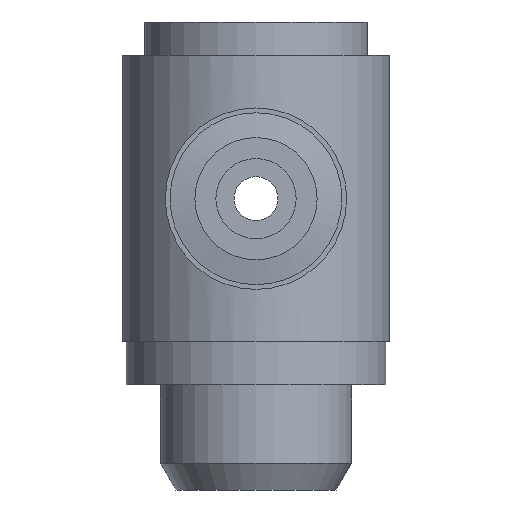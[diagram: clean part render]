
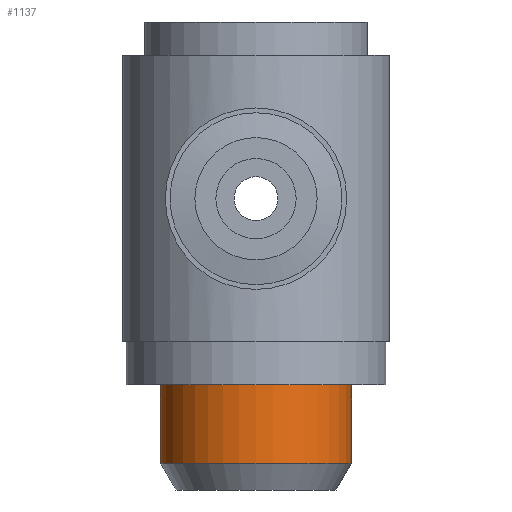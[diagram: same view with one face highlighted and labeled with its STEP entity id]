
A CAD part, front view. The second image highlights one B-rep face of the part: STEP entity #1137.
In plain terms, the highlighted cylindrical face has radius 5 mm (diameter 10 mm), a full revolution.
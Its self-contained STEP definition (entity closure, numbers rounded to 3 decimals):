
#1097=CARTESIAN_POINT('',(0.,-5.0,-13.85));
#1098=VERTEX_POINT('',#1097);
#1099=CARTESIAN_POINT('',(0.0,0.0,-13.85));
#1100=DIRECTION('',(0.0,0.0,-1.0));
#1101=DIRECTION('',(0.0,1.0,0.0));
#1102=AXIS2_PLACEMENT_3D('',#1099,#1100,#1101);
#1103=CIRCLE('',#1102,5.0);
#1104=EDGE_CURVE('',#1098,#1098,#1103,.T.);
#1118=CARTESIAN_POINT('',(0.0,0.0,-12.5));
#1119=DIRECTION('',(0.0,0.0,1.0));
#1120=DIRECTION('',(0.0,-1.0,0.0));
#1121=AXIS2_PLACEMENT_3D('',#1118,#1119,#1120);
#1122=CYLINDRICAL_SURFACE('',#1121,5.0);
#1123=CARTESIAN_POINT('',(0.0,-5.0,-9.75));
#1124=VERTEX_POINT('',#1123);
#1125=CARTESIAN_POINT('',(0.0,0.0,-9.75));
#1126=DIRECTION('',(0.0,0.0,1.0));
#1127=DIRECTION('',(0.0,-1.0,0.0));
#1128=AXIS2_PLACEMENT_3D('',#1125,#1126,#1127);
#1129=CIRCLE('',#1128,5.0);
#1130=EDGE_CURVE('',#1124,#1124,#1129,.T.);
#1131=ORIENTED_EDGE('',*,*,#1130,.F.);
#1132=EDGE_LOOP('',(#1131));
#1133=FACE_OUTER_BOUND('',#1132,.T.);
#1134=ORIENTED_EDGE('',*,*,#1104,.F.);
#1135=EDGE_LOOP('',(#1134));
#1136=FACE_BOUND('',#1135,.T.);
#1137=ADVANCED_FACE('',(#1133,#1136),#1122,.T.);
